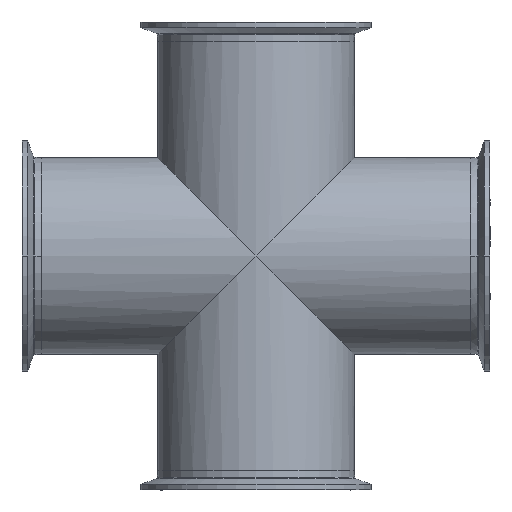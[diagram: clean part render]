
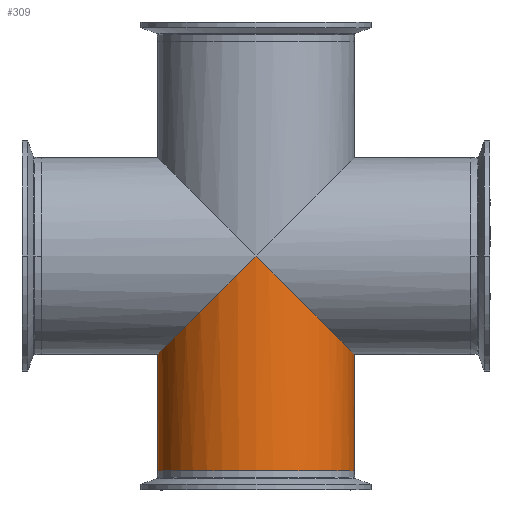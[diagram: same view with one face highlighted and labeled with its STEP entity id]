
A CAD part, front view. The second image highlights one B-rep face of the part: STEP entity #309.
In plain terms, the highlighted cylindrical face has radius 50.8 mm (diameter 101.6 mm), a partial arc.
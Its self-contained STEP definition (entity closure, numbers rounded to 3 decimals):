
#309 = ADVANCED_FACE ( 'NONE', ( #3434 ), #5732, .T. ) ;
#327 = CARTESIAN_POINT ( 'NONE',  ( 29.758, -50.8, -29.758 ) ) ;
#553 = CARTESIAN_POINT ( 'NONE',  ( -50.8, 0., -110.65 ) ) ;
#651 = AXIS2_PLACEMENT_3D ( 'NONE', #4608, #1657, #5109 ) ;
#712 = CARTESIAN_POINT ( 'NONE',  ( 50.8, 0., -50.8 ) ) ;
#921 = VECTOR ( 'NONE', #3662, 1000. ) ;
#930 = VERTEX_POINT ( 'NONE', #1325 ) ;
#1203 = CARTESIAN_POINT ( 'NONE',  ( -50.8, -29.758, -50.8 ) ) ;
#1325 = CARTESIAN_POINT ( 'NONE',  ( -50.8, 0., -50.8 ) ) ;
#1393 = EDGE_CURVE ( 'NONE', #1961, #4125, #3654, .T. ) ;
#1430 = ORIENTED_EDGE ( 'NONE', *, *, #6159, .F. ) ;
#1479 = AXIS2_PLACEMENT_3D ( 'NONE', #5177, #3631, #3147 ) ;
#1527 = DIRECTION ( 'NONE',  ( 0., 0., 1. ) ) ;
#1615 = CARTESIAN_POINT ( 'NONE',  ( 50.8, 0., -110.65 ) ) ;
#1657 = DIRECTION ( 'NONE',  ( 0., 0., 1. ) ) ;
#1874 = VERTEX_POINT ( 'NONE', #3851 ) ;
#1924 = EDGE_CURVE ( 'NONE', #3473, #1961, #2236, .T. ) ;
#1961 = VERTEX_POINT ( 'NONE', #712 ) ;
#2168 = VECTOR ( 'NONE', #1527, 1000. ) ;
#2236 = LINE ( 'NONE', #4143, #921 ) ;
#2384 = EDGE_LOOP ( 'NONE', ( #1430, #3086, #4540, #2618, #5411 ) ) ;
#2618 = ORIENTED_EDGE ( 'NONE', *, *, #1393, .T. ) ;
#2761 = CARTESIAN_POINT ( 'NONE',  ( 0., -50.8, 0. ) ) ;
#3086 = ORIENTED_EDGE ( 'NONE', *, *, #3583, .T. ) ;
#3147 = DIRECTION ( 'NONE',  ( 1., 0., 0. ) ) ;
#3434 = FACE_OUTER_BOUND ( 'NONE', #2384, .T. ) ;
#3473 = VERTEX_POINT ( 'NONE', #1615 ) ;
#3583 = EDGE_CURVE ( 'NONE', #1874, #3473, #4479, .T. ) ;
#3631 = DIRECTION ( 'NONE',  ( 0., 0., 1. ) ) ;
#3654 =( BOUNDED_CURVE ( )  B_SPLINE_CURVE ( 3, ( #5234, #4217, #327, #2761 ),
 .UNSPECIFIED., .F., .F. ) 
 B_SPLINE_CURVE_WITH_KNOTS ( ( 4, 4 ),
 ( 0., 1.571 ),
 .UNSPECIFIED. ) 
 CURVE ( )  GEOMETRIC_REPRESENTATION_ITEM ( )  RATIONAL_B_SPLINE_CURVE ( ( 1., 0.805, 0.805, 1. ) ) 
 REPRESENTATION_ITEM ( '' )  );
#3662 = DIRECTION ( 'NONE',  ( 0., 0., 1. ) ) ;
#3851 = CARTESIAN_POINT ( 'NONE',  ( -50.8, 0., -110.65 ) ) ;
#4125 = VERTEX_POINT ( 'NONE', #4867 ) ;
#4143 = CARTESIAN_POINT ( 'NONE',  ( 50.8, 0., -110.65 ) ) ;
#4150 =( BOUNDED_CURVE ( )  B_SPLINE_CURVE ( 3, ( #4152, #6148, #1203, #4679 ),
 .UNSPECIFIED., .F., .F. ) 
 B_SPLINE_CURVE_WITH_KNOTS ( ( 4, 4 ),
 ( 1.571, 3.142 ),
 .UNSPECIFIED. ) 
 CURVE ( )  GEOMETRIC_REPRESENTATION_ITEM ( )  RATIONAL_B_SPLINE_CURVE ( ( 1., 0.805, 0.805, 1. ) ) 
 REPRESENTATION_ITEM ( '' )  );
#4152 = CARTESIAN_POINT ( 'NONE',  ( 0., -50.8, 0. ) ) ;
#4217 = CARTESIAN_POINT ( 'NONE',  ( 50.8, -29.758, -50.8 ) ) ;
#4479 = CIRCLE ( 'NONE', #651, 50.8 ) ;
#4540 = ORIENTED_EDGE ( 'NONE', *, *, #1924, .T. ) ;
#4608 = CARTESIAN_POINT ( 'NONE',  ( 0., 0., -110.65 ) ) ;
#4679 = CARTESIAN_POINT ( 'NONE',  ( -50.8, 0., -50.8 ) ) ;
#4867 = CARTESIAN_POINT ( 'NONE',  ( 0., -50.8, 0. ) ) ;
#5109 = DIRECTION ( 'NONE',  ( 1., 0., 0. ) ) ;
#5177 = CARTESIAN_POINT ( 'NONE',  ( 0., 0., -110.65 ) ) ;
#5234 = CARTESIAN_POINT ( 'NONE',  ( 50.8, 0., -50.8 ) ) ;
#5411 = ORIENTED_EDGE ( 'NONE', *, *, #6373, .T. ) ;
#5732 = CYLINDRICAL_SURFACE ( 'NONE', #1479, 50.8 ) ;
#6117 = LINE ( 'NONE', #553, #2168 ) ;
#6148 = CARTESIAN_POINT ( 'NONE',  ( -29.758, -50.8, -29.758 ) ) ;
#6159 = EDGE_CURVE ( 'NONE', #1874, #930, #6117, .T. ) ;
#6373 = EDGE_CURVE ( 'NONE', #4125, #930, #4150, .T. ) ;
